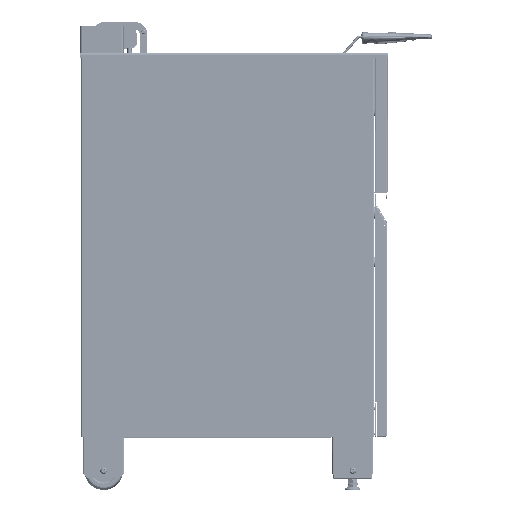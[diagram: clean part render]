
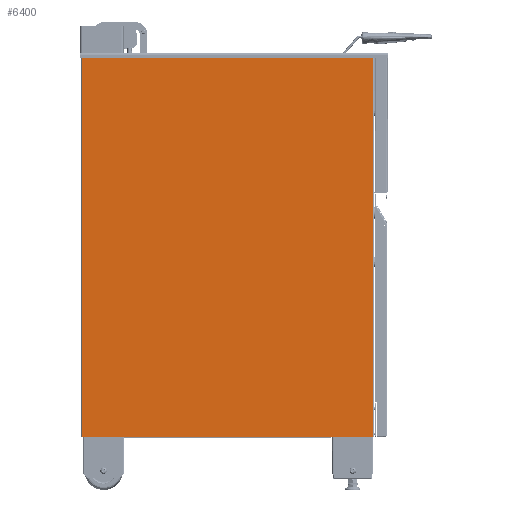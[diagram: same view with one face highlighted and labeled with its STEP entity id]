
A CAD part, left-side view. The second image highlights one B-rep face of the part: STEP entity #6400.
In plain terms, the highlighted planar face has unit normal (-1, 0, 0).
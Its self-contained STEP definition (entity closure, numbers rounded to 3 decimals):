
#6400=ADVANCED_FACE('',(#11983),#89899,.T.);
#11983=FACE_OUTER_BOUND('',#18138,.T.);
#18138=EDGE_LOOP('',(#45421,#45422,#45423,#45424,#45425,#45426,#45427,#45428,
#45429,#45430,#45431,#45432,#45433,#45434,#45435,#45436));
#45421=ORIENTED_EDGE('',*,*,#59858,.F.);
#45422=ORIENTED_EDGE('',*,*,#59859,.F.);
#45423=ORIENTED_EDGE('',*,*,#59860,.F.);
#45424=ORIENTED_EDGE('',*,*,#59861,.F.);
#45425=ORIENTED_EDGE('',*,*,#59862,.F.);
#45426=ORIENTED_EDGE('',*,*,#59863,.F.);
#45427=ORIENTED_EDGE('',*,*,#59864,.F.);
#45428=ORIENTED_EDGE('',*,*,#59865,.F.);
#45429=ORIENTED_EDGE('',*,*,#59866,.F.);
#45430=ORIENTED_EDGE('',*,*,#59867,.F.);
#45431=ORIENTED_EDGE('',*,*,#59868,.F.);
#45432=ORIENTED_EDGE('',*,*,#59869,.F.);
#45433=ORIENTED_EDGE('',*,*,#59870,.F.);
#45434=ORIENTED_EDGE('',*,*,#59871,.F.);
#45435=ORIENTED_EDGE('',*,*,#59872,.F.);
#45436=ORIENTED_EDGE('',*,*,#59857,.F.);
#59857=EDGE_CURVE('',#87409,#87410,#69522,.T.);
#59858=EDGE_CURVE('',#87411,#87409,#69523,.T.);
#59859=EDGE_CURVE('',#87412,#87411,#69524,.T.);
#59860=EDGE_CURVE('',#87413,#87412,#69525,.T.);
#59861=EDGE_CURVE('',#87414,#87413,#69526,.T.);
#59862=EDGE_CURVE('',#87415,#87414,#69527,.T.);
#59863=EDGE_CURVE('',#87416,#87415,#69528,.T.);
#59864=EDGE_CURVE('',#87417,#87416,#69529,.T.);
#59865=EDGE_CURVE('',#87418,#87417,#69530,.T.);
#59866=EDGE_CURVE('',#87419,#87418,#69531,.T.);
#59867=EDGE_CURVE('',#87420,#87419,#69532,.T.);
#59868=EDGE_CURVE('',#87421,#87420,#69533,.T.);
#59869=EDGE_CURVE('',#87422,#87421,#69534,.T.);
#59870=EDGE_CURVE('',#87423,#87422,#69535,.T.);
#59871=EDGE_CURVE('',#87424,#87423,#69536,.T.);
#59872=EDGE_CURVE('',#87410,#87424,#69537,.T.);
#69522=B_SPLINE_CURVE_WITH_KNOTS('',1,(#278036,#278037),.UNSPECIFIED.,.F.,
 .F.,(2,2),(-2.5,0.),.UNSPECIFIED.);
#69523=B_SPLINE_CURVE_WITH_KNOTS('',1,(#278038,#278039),.UNSPECIFIED.,.F.,
 .F.,(2,2),(-0.5,0.),.UNSPECIFIED.);
#69524=B_SPLINE_CURVE_WITH_KNOTS('',1,(#278040,#278041),.UNSPECIFIED.,.F.,
 .F.,(2,2),(-0.5,0.),.UNSPECIFIED.);
#69525=B_SPLINE_CURVE_WITH_KNOTS('',1,(#278042,#278043),.UNSPECIFIED.,.F.,
 .F.,(2,2),(-402.,0.),.UNSPECIFIED.);
#69526=B_SPLINE_CURVE_WITH_KNOTS('',1,(#278044,#278045),.UNSPECIFIED.,.F.,
 .F.,(2,2),(-0.5,0.),.UNSPECIFIED.);
#69527=B_SPLINE_CURVE_WITH_KNOTS('',1,(#278046,#278047),.UNSPECIFIED.,.F.,
 .F.,(2,2),(-0.5,0.),.UNSPECIFIED.);
#69528=B_SPLINE_CURVE_WITH_KNOTS('',1,(#278048,#278049),.UNSPECIFIED.,.F.,
 .F.,(2,2),(-2.5,0.),.UNSPECIFIED.);
#69529=B_SPLINE_CURVE_WITH_KNOTS('',1,(#278050,#278051),.UNSPECIFIED.,.F.,
 .F.,(2,2),(-81.335,0.),.UNSPECIFIED.);
#69530=B_SPLINE_CURVE_WITH_KNOTS('',1,(#278052,#278053),.UNSPECIFIED.,.F.,
 .F.,(2,2),(-744.8,0.),.UNSPECIFIED.);
#69531=B_SPLINE_CURVE_WITH_KNOTS('',1,(#278054,#278055),.UNSPECIFIED.,.F.,
 .F.,(2,2),(-81.835,0.),.UNSPECIFIED.);
#69532=B_SPLINE_CURVE_WITH_KNOTS('',1,(#278056,#278057),.UNSPECIFIED.,.F.,
 .F.,(2,2),(-0.2,0.),.UNSPECIFIED.);
#69533=B_SPLINE_CURVE_WITH_KNOTS('',1,(#278058,#278059),.UNSPECIFIED.,.F.,
 .F.,(2,2),(-402.,0.),.UNSPECIFIED.);
#69534=B_SPLINE_CURVE_WITH_KNOTS('',1,(#278060,#278061),.UNSPECIFIED.,.F.,
 .F.,(2,2),(-0.2,0.),.UNSPECIFIED.);
#69535=B_SPLINE_CURVE_WITH_KNOTS('',1,(#278062,#278063),.UNSPECIFIED.,.F.,
 .F.,(2,2),(-81.835,0.),.UNSPECIFIED.);
#69536=B_SPLINE_CURVE_WITH_KNOTS('',1,(#278064,#278065),.UNSPECIFIED.,.F.,
 .F.,(2,2),(-744.8,0.),.UNSPECIFIED.);
#69537=B_SPLINE_CURVE_WITH_KNOTS('',1,(#278066,#278067),.UNSPECIFIED.,.F.,
 .F.,(2,2),(-81.335,0.),.UNSPECIFIED.);
#87409=VERTEX_POINT('',#277760);
#87410=VERTEX_POINT('',#277761);
#87411=VERTEX_POINT('',#277762);
#87412=VERTEX_POINT('',#277763);
#87413=VERTEX_POINT('',#277764);
#87414=VERTEX_POINT('',#277765);
#87415=VERTEX_POINT('',#277766);
#87416=VERTEX_POINT('',#277767);
#87417=VERTEX_POINT('',#277768);
#87418=VERTEX_POINT('',#277769);
#87419=VERTEX_POINT('',#277770);
#87420=VERTEX_POINT('',#277771);
#87421=VERTEX_POINT('',#277772);
#87422=VERTEX_POINT('',#277773);
#87423=VERTEX_POINT('',#277774);
#87424=VERTEX_POINT('',#277775);
#89899=PLANE('',#101784);
#101784=AXIS2_PLACEMENT_3D('',#277593,#114966,$);
#114966=DIRECTION('',(-1.,0.,0.));
#277593=CARTESIAN_POINT('',(-121.5,-339.404,28.));
#277760=CARTESIAN_POINT('',(-121.5,-201.504,845.));
#277761=CARTESIAN_POINT('',(-121.5,-201.504,847.5));
#277762=CARTESIAN_POINT('',(-121.5,-201.004,845.));
#277763=CARTESIAN_POINT('',(-121.5,-201.004,845.5));
#277764=CARTESIAN_POINT('',(-121.5,200.996,845.501));
#277765=CARTESIAN_POINT('',(-121.5,200.996,845.001));
#277766=CARTESIAN_POINT('',(-121.5,201.496,845.001));
#277767=CARTESIAN_POINT('',(-121.5,201.496,847.501));
#277768=CARTESIAN_POINT('',(-121.5,282.831,847.501));
#277769=CARTESIAN_POINT('',(-121.5,282.833,102.701));
#277770=CARTESIAN_POINT('',(-121.5,200.998,102.701));
#277771=CARTESIAN_POINT('',(-121.5,200.998,102.501));
#277772=CARTESIAN_POINT('',(-121.5,-201.002,102.5));
#277773=CARTESIAN_POINT('',(-121.5,-201.002,102.7));
#277774=CARTESIAN_POINT('',(-121.5,-282.837,102.7));
#277775=CARTESIAN_POINT('',(-121.5,-282.839,847.5));
#278036=CARTESIAN_POINT('',(-121.5,-201.504,845.));
#278037=CARTESIAN_POINT('',(-121.5,-201.504,847.5));
#278038=CARTESIAN_POINT('',(-121.5,-201.004,845.));
#278039=CARTESIAN_POINT('',(-121.5,-201.504,845.));
#278040=CARTESIAN_POINT('',(-121.5,-201.004,845.5));
#278041=CARTESIAN_POINT('',(-121.5,-201.004,845.));
#278042=CARTESIAN_POINT('',(-121.5,200.996,845.501));
#278043=CARTESIAN_POINT('',(-121.5,-201.004,845.5));
#278044=CARTESIAN_POINT('',(-121.5,200.996,845.001));
#278045=CARTESIAN_POINT('',(-121.5,200.996,845.501));
#278046=CARTESIAN_POINT('',(-121.5,201.496,845.001));
#278047=CARTESIAN_POINT('',(-121.5,200.996,845.001));
#278048=CARTESIAN_POINT('',(-121.5,201.496,847.501));
#278049=CARTESIAN_POINT('',(-121.5,201.496,845.001));
#278050=CARTESIAN_POINT('',(-121.5,282.831,847.501));
#278051=CARTESIAN_POINT('',(-121.5,201.496,847.501));
#278052=CARTESIAN_POINT('',(-121.5,282.833,102.701));
#278053=CARTESIAN_POINT('',(-121.5,282.831,847.501));
#278054=CARTESIAN_POINT('',(-121.5,200.998,102.701));
#278055=CARTESIAN_POINT('',(-121.5,282.833,102.701));
#278056=CARTESIAN_POINT('',(-121.5,200.998,102.501));
#278057=CARTESIAN_POINT('',(-121.5,200.998,102.701));
#278058=CARTESIAN_POINT('',(-121.5,-201.002,102.5));
#278059=CARTESIAN_POINT('',(-121.5,200.998,102.501));
#278060=CARTESIAN_POINT('',(-121.5,-201.002,102.7));
#278061=CARTESIAN_POINT('',(-121.5,-201.002,102.5));
#278062=CARTESIAN_POINT('',(-121.5,-282.837,102.7));
#278063=CARTESIAN_POINT('',(-121.5,-201.002,102.7));
#278064=CARTESIAN_POINT('',(-121.5,-282.839,847.5));
#278065=CARTESIAN_POINT('',(-121.5,-282.837,102.7));
#278066=CARTESIAN_POINT('',(-121.5,-201.504,847.5));
#278067=CARTESIAN_POINT('',(-121.5,-282.839,847.5));
